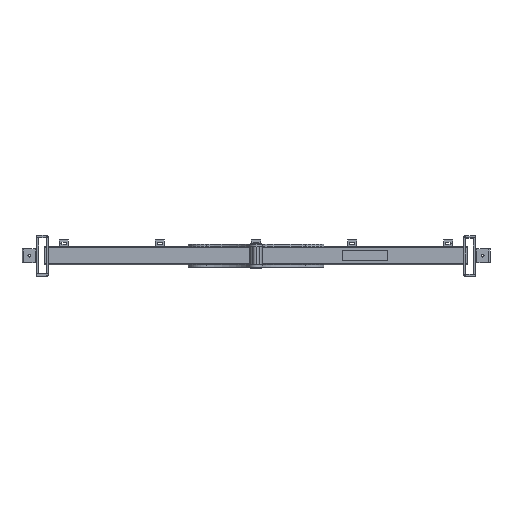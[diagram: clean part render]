
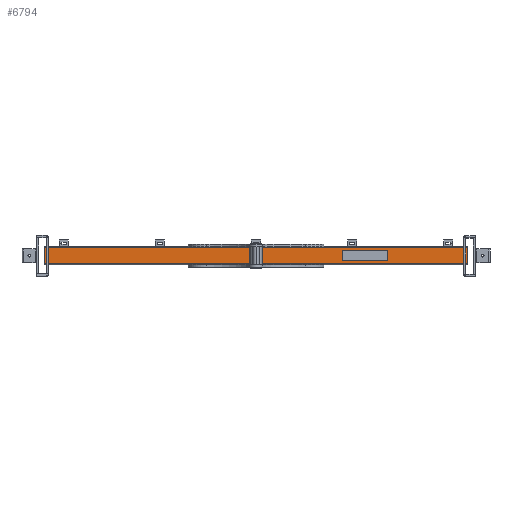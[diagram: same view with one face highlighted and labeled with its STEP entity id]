
A CAD part, top view. The second image highlights one B-rep face of the part: STEP entity #6794.
In plain terms, the highlighted planar face has unit normal (0, 0, 1) as drawn and (0, 1, 0) by its records, which use the part's own axes.
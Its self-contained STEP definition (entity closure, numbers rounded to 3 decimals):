
#18 = CARTESIAN_POINT ( 'NONE',  ( 35., 40., 932.5 ) ) ;
#22 = LINE ( 'NONE', #2609, #2886 ) ;
#276 = LINE ( 'NONE', #3200, #5553 ) ;
#321 = EDGE_CURVE ( 'NONE', #3132, #5674, #276, .T. ) ;
#436 = ORIENTED_EDGE ( 'NONE', *, *, #2917, .F. ) ;
#544 = CARTESIAN_POINT ( 'NONE',  ( -35., 40., 932.5 ) ) ;
#903 = EDGE_CURVE ( 'NONE', #3132, #2527, #5897, .T. ) ;
#927 = DIRECTION ( 'NONE',  ( 0., 0., -1. ) ) ;
#1017 = CARTESIAN_POINT ( 'NONE',  ( -35., 40., 932.5 ) ) ;
#1092 = DIRECTION ( 'NONE',  ( 0., 0., -1. ) ) ;
#1272 = FACE_BOUND ( 'NONE', #3287, .T. ) ;
#1435 = DIRECTION ( 'NONE',  ( 1., 0., 0. ) ) ;
#1753 = VERTEX_POINT ( 'NONE', #5559 ) ;
#1814 = ORIENTED_EDGE ( 'NONE', *, *, #321, .F. ) ;
#1925 = AXIS2_PLACEMENT_3D ( 'NONE', #4404, #2127, #927 ) ;
#1970 = VECTOR ( 'NONE', #4344, 1000. ) ;
#2005 = CARTESIAN_POINT ( 'NONE',  ( -22.5, 40., -382.5 ) ) ;
#2127 = DIRECTION ( 'NONE',  ( 0., -1., 0. ) ) ;
#2527 = VERTEX_POINT ( 'NONE', #2851 ) ;
#2609 = CARTESIAN_POINT ( 'NONE',  ( 22.5, 40., -382.5 ) ) ;
#2670 = CARTESIAN_POINT ( 'NONE',  ( 35., 40., 932.5 ) ) ;
#2707 = LINE ( 'NONE', #5755, #4744 ) ;
#2851 = CARTESIAN_POINT ( 'NONE',  ( 35., 40., -932.5 ) ) ;
#2886 = VECTOR ( 'NONE', #6616, 1000. ) ;
#2905 = DIRECTION ( 'NONE',  ( -1., 0., 0. ) ) ;
#2917 = EDGE_CURVE ( 'NONE', #3465, #5607, #4860, .T. ) ;
#2960 = VECTOR ( 'NONE', #1435, 1000. ) ;
#3132 = VERTEX_POINT ( 'NONE', #18 ) ;
#3141 = FACE_OUTER_BOUND ( 'NONE', #3178, .T. ) ;
#3178 = EDGE_LOOP ( 'NONE', ( #6293, #6848, #1814, #6042 ) ) ;
#3200 = CARTESIAN_POINT ( 'NONE',  ( -35., 40., 932.5 ) ) ;
#3216 = VECTOR ( 'NONE', #4941, 1000. ) ;
#3287 = EDGE_LOOP ( 'NONE', ( #436, #4495, #3528, #7023 ) ) ;
#3350 = VECTOR ( 'NONE', #7037, 1000. ) ;
#3465 = VERTEX_POINT ( 'NONE', #4802 ) ;
#3528 = ORIENTED_EDGE ( 'NONE', *, *, #4719, .F. ) ;
#3785 = CARTESIAN_POINT ( 'NONE',  ( -22.5, 40., -382.5 ) ) ;
#4019 = LINE ( 'NONE', #2005, #2960 ) ;
#4232 = CARTESIAN_POINT ( 'NONE',  ( -35., 40., -932.5 ) ) ;
#4316 = CARTESIAN_POINT ( 'NONE',  ( -22.5, 40., -582.5 ) ) ;
#4344 = DIRECTION ( 'NONE',  ( 0., 0., -1. ) ) ;
#4404 = CARTESIAN_POINT ( 'NONE',  ( -35., 40., 932.5 ) ) ;
#4495 = ORIENTED_EDGE ( 'NONE', *, *, #6650, .F. ) ;
#4549 = LINE ( 'NONE', #3785, #3216 ) ;
#4719 = EDGE_CURVE ( 'NONE', #1753, #5444, #4019, .T. ) ;
#4744 = VECTOR ( 'NONE', #2905, 1000. ) ;
#4802 = CARTESIAN_POINT ( 'NONE',  ( 22.5, 40., -582.5 ) ) ;
#4860 = LINE ( 'NONE', #6070, #3350 ) ;
#4869 = EDGE_CURVE ( 'NONE', #5607, #1753, #4549, .T. ) ;
#4941 = DIRECTION ( 'NONE',  ( 0., 0., 1. ) ) ;
#5365 = CARTESIAN_POINT ( 'NONE',  ( 22.5, 40., -382.5 ) ) ;
#5444 = VERTEX_POINT ( 'NONE', #5365 ) ;
#5553 = VECTOR ( 'NONE', #7250, 1000. ) ;
#5559 = CARTESIAN_POINT ( 'NONE',  ( -22.5, 40., -382.5 ) ) ;
#5607 = VERTEX_POINT ( 'NONE', #4316 ) ;
#5674 = VERTEX_POINT ( 'NONE', #1017 ) ;
#5755 = CARTESIAN_POINT ( 'NONE',  ( -35., 40., -932.5 ) ) ;
#5833 = EDGE_CURVE ( 'NONE', #5674, #7381, #6951, .T. ) ;
#5897 = LINE ( 'NONE', #2670, #1970 ) ;
#6042 = ORIENTED_EDGE ( 'NONE', *, *, #903, .T. ) ;
#6070 = CARTESIAN_POINT ( 'NONE',  ( -22.5, 40., -582.5 ) ) ;
#6293 = ORIENTED_EDGE ( 'NONE', *, *, #6404, .T. ) ;
#6321 = VECTOR ( 'NONE', #1092, 1000. ) ;
#6404 = EDGE_CURVE ( 'NONE', #2527, #7381, #2707, .T. ) ;
#6616 = DIRECTION ( 'NONE',  ( 0., 0., -1. ) ) ;
#6650 = EDGE_CURVE ( 'NONE', #5444, #3465, #22, .T. ) ;
#6794 = ADVANCED_FACE ( 'NONE', ( #1272, #3141 ), #7217, .F. ) ;
#6848 = ORIENTED_EDGE ( 'NONE', *, *, #5833, .F. ) ;
#6951 = LINE ( 'NONE', #544, #6321 ) ;
#7023 = ORIENTED_EDGE ( 'NONE', *, *, #4869, .F. ) ;
#7037 = DIRECTION ( 'NONE',  ( -1., 0., 0. ) ) ;
#7217 = PLANE ( 'NONE',  #1925 ) ;
#7250 = DIRECTION ( 'NONE',  ( -1., 0., 0. ) ) ;
#7381 = VERTEX_POINT ( 'NONE', #4232 ) ;
